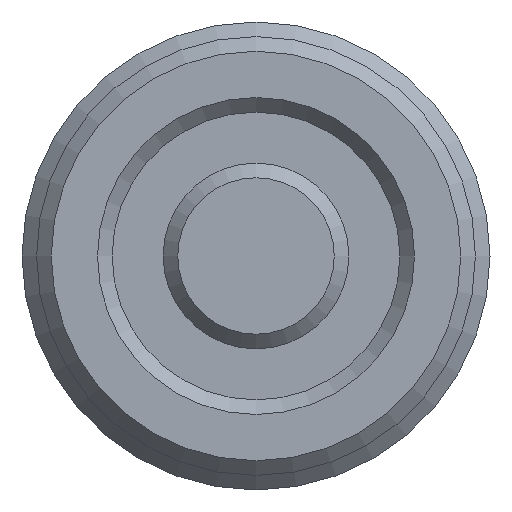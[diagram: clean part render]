
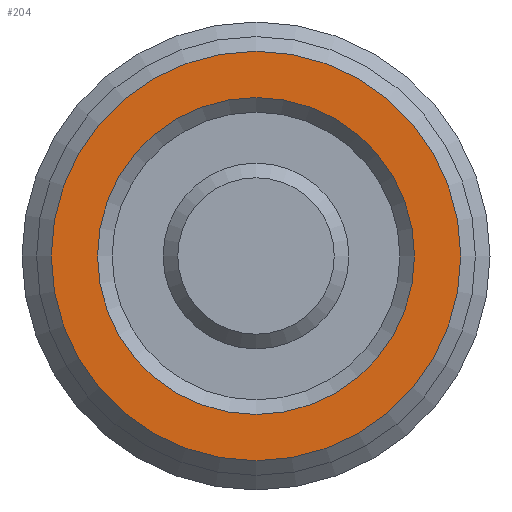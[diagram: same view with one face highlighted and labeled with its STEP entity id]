
A CAD part, left-side view. The second image highlights one B-rep face of the part: STEP entity #204.
In plain terms, the highlighted planar face has unit normal (-1, 0, 0).
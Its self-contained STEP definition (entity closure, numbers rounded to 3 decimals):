
#204 = ADVANCED_FACE( '', ( #247, #248 ), #249, .F. );
#247 = FACE_OUTER_BOUND( '', #303, .T. );
#248 = FACE_BOUND( '', #304, .T. );
#249 = PLANE( '', #305 );
#303 = EDGE_LOOP( '', ( #380 ) );
#304 = EDGE_LOOP( '', ( #381 ) );
#305 = AXIS2_PLACEMENT_3D( '', #382, #383, #384 );
#380 = ORIENTED_EDGE( '', *, *, #429, .F. );
#381 = ORIENTED_EDGE( '', *, *, #430, .T. );
#382 = CARTESIAN_POINT( '', ( 7., 2.709, 0. ) );
#383 = DIRECTION( '', ( 1., 0., 0. ) );
#384 = DIRECTION( '', ( 0., 0., -1. ) );
#429 = EDGE_CURVE( '', #458, #458, #459, .T. );
#430 = EDGE_CURVE( '', #460, #460, #461, .T. );
#458 = VERTEX_POINT( '', #494 );
#459 = CIRCLE( '', #495, 3.5 );
#460 = VERTEX_POINT( '', #496 );
#461 = CIRCLE( '', #497, 2.709 );
#494 = CARTESIAN_POINT( '', ( 7., 0., -3.5 ) );
#495 = AXIS2_PLACEMENT_3D( '', #541, #542, #543 );
#496 = CARTESIAN_POINT( '', ( 7., 0., -2.709 ) );
#497 = AXIS2_PLACEMENT_3D( '', #544, #545, #546 );
#541 = CARTESIAN_POINT( '', ( 7., 0., 0. ) );
#542 = DIRECTION( '', ( 1., 0., 0. ) );
#543 = DIRECTION( '', ( 0., 0., -1. ) );
#544 = CARTESIAN_POINT( '', ( 7., 0., 0. ) );
#545 = DIRECTION( '', ( 1., 0., 0. ) );
#546 = DIRECTION( '', ( 0., 0., -1. ) );
